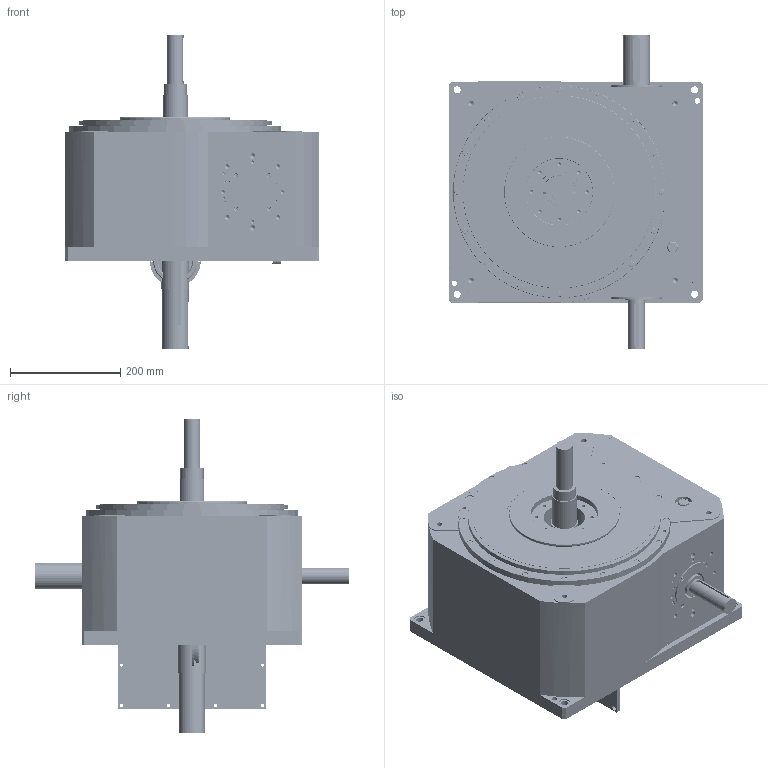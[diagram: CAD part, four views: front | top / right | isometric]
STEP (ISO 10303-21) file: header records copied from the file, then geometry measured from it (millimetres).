
FILE_DESCRIPTION( ( 'Unknown' ), '1' );
FILE_NAME( 'S:/TAVOLE/T55/Schemi/T55.stp', 'Unknown', ( 'Unknown' ), ( 'Unknown' ), 'XStep 1.0', 'Unknown', ' ' );
FILE_SCHEMA( ( 'automotive_design' ) );
Length unit declared in the file: millimetre
Products named in the file (17): Assem1; Assem2; D=9.525 211929; GUARNIZIONE IN SEDE TA 55; SPINA CIL 03x020-A 8734; PIOLO_T55; CORPO ESTERNO; 205925; CORPO INTERNO; VITE TSEI M03x020 5933 10.9; 31288_; 215509; 211240; 02659_; TARGHETTA; TAPPO_TCDF_58651; VITE_TCEI_M6x20_UNI5931
Bounding box: 460.5 x 570 x 570 mm (x, y, z)
Volume: 47271064.1 mm3; surface area: 4405399.8 mm2
Topology: 226 solids, 226 shells, 4557 faces, 11638 edges, 7674 vertices
Faces by surface type: plane 2726, cylinder 896, cone 316, extrusion 298, sphere 202, torus 65, bspline 54
Full cylindrical faces by diameter (mm): 2.459 x19, 2.5 x4, 2.859 x9, 3 x25, 3.5 x12, 4.134 x40, 4.917 x38, 5.5 x24, 6 x43, 6.5 x6, 6.647 x32, 7.1 x48, 7.5 x54, 8.376 x18, 9.5 x24, 10 x37, 10.106 x8, 11.1 x48, 12 x2, 13 x8, 15 x2, 20 x8, 30 x4, 42 x2, 45 x2, 47 x2, 48 x2, 49 x3, 50 x6, 60 x4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
Entity records: 68696 total; most frequent: CARTESIAN_POINT 23967, ORIENTED_EDGE 9028, DIRECTION 7980, EDGE_CURVE 4514, VERTEX_POINT 3242, EDGE_LOOP 2729, AXIS2_PLACEMENT_3D 2723, VECTOR 2534
